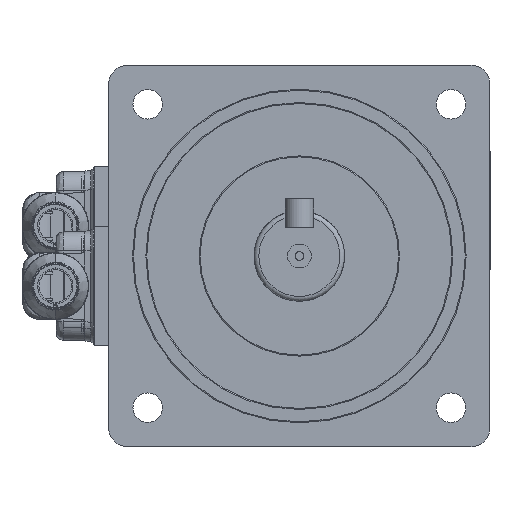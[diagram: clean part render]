
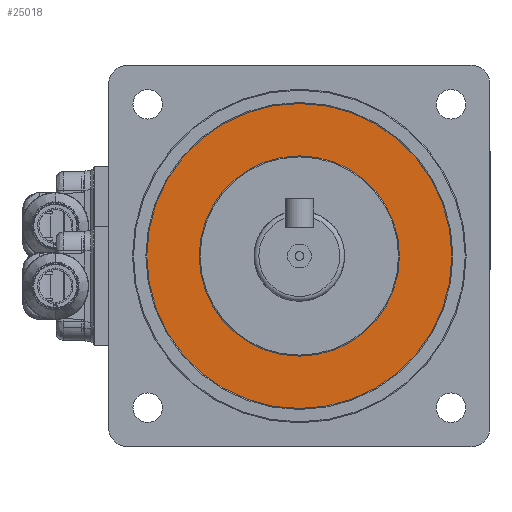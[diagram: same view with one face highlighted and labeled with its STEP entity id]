
A CAD part, left-side view. The second image highlights one B-rep face of the part: STEP entity #25018.
In plain terms, the highlighted planar face has unit normal (-1, 0, 0) as drawn and (0, 0, 1) by its records, which use the part's own axes.
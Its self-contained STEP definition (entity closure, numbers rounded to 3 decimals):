
#1400 = CARTESIAN_POINT ( 'NONE',  ( 21., 0., 7. ) ) ;
#1490 = CARTESIAN_POINT ( 'NONE',  ( 32., 0., 7. ) ) ;
#4013 = VERTEX_POINT ( 'NONE', #13503 ) ;
#4806 = AXIS2_PLACEMENT_3D ( 'NONE', #20583, #61955, #26472 ) ;
#5264 = AXIS2_PLACEMENT_3D ( 'NONE', #8929, #50346, #14893 ) ;
#7400 = FACE_OUTER_BOUND ( 'NONE', #31412, .T. ) ;
#8929 = CARTESIAN_POINT ( 'NONE',  ( 0., 0., 7. ) ) ;
#13503 = CARTESIAN_POINT ( 'NONE',  ( -32., 0., 7. ) ) ;
#14893 = DIRECTION ( 'NONE',  ( 1., 0., 0. ) ) ;
#16951 = ORIENTED_EDGE ( 'NONE', *, *, #44952, .T. ) ;
#18667 = VERTEX_POINT ( 'NONE', #1490 ) ;
#20583 = CARTESIAN_POINT ( 'NONE',  ( 0., 0., 7. ) ) ;
#25018 = ADVANCED_FACE ( 'NONE', ( #35110, #7400 ), #68620, .T. ) ;
#25402 = DIRECTION ( 'NONE',  ( 0., 0., 1. ) ) ;
#26472 = DIRECTION ( 'NONE',  ( 1., 0., 0. ) ) ;
#27425 = DIRECTION ( 'NONE',  ( 0., 0., 1. ) ) ;
#28936 = DIRECTION ( 'NONE',  ( 0., 0., 1. ) ) ;
#29416 = CIRCLE ( 'NONE', #4806, 32. ) ;
#31412 = EDGE_LOOP ( 'NONE', ( #76745, #16951 ) ) ;
#32615 = CIRCLE ( 'NONE', #34223, 21. ) ;
#34223 = AXIS2_PLACEMENT_3D ( 'NONE', #64443, #28936, #70415 ) ;
#35110 = FACE_BOUND ( 'NONE', #75043, .T. ) ;
#39140 = AXIS2_PLACEMENT_3D ( 'NONE', #56997, #27425, #68896 ) ;
#41475 = VERTEX_POINT ( 'NONE', #1400 ) ;
#43059 = AXIS2_PLACEMENT_3D ( 'NONE', #60889, #25402, #66820 ) ;
#44952 = EDGE_CURVE ( 'NONE', #4013, #18667, #29416, .T. ) ;
#45347 = EDGE_CURVE ( 'NONE', #18667, #4013, #61840, .T. ) ;
#48322 = VERTEX_POINT ( 'NONE', #65962 ) ;
#50346 = DIRECTION ( 'NONE',  ( 0., 0., 1. ) ) ;
#51464 = EDGE_CURVE ( 'NONE', #48322, #41475, #32615, .T. ) ;
#54412 = ORIENTED_EDGE ( 'NONE', *, *, #58083, .F. ) ;
#56997 = CARTESIAN_POINT ( 'NONE',  ( 0., 0., 7. ) ) ;
#58083 = EDGE_CURVE ( 'NONE', #41475, #48322, #62664, .T. ) ;
#60889 = CARTESIAN_POINT ( 'NONE',  ( 0., 0., 7. ) ) ;
#61205 = ORIENTED_EDGE ( 'NONE', *, *, #51464, .F. ) ;
#61840 = CIRCLE ( 'NONE', #43059, 32. ) ;
#61955 = DIRECTION ( 'NONE',  ( 0., 0., 1. ) ) ;
#62664 = CIRCLE ( 'NONE', #5264, 21. ) ;
#64443 = CARTESIAN_POINT ( 'NONE',  ( 0., 0., 7. ) ) ;
#65962 = CARTESIAN_POINT ( 'NONE',  ( -21., 0., 7. ) ) ;
#66820 = DIRECTION ( 'NONE',  ( 1., 0., 0. ) ) ;
#68620 = PLANE ( 'NONE',  #39140 ) ;
#68896 = DIRECTION ( 'NONE',  ( 1., 0., 0. ) ) ;
#70415 = DIRECTION ( 'NONE',  ( 1., 0., 0. ) ) ;
#75043 = EDGE_LOOP ( 'NONE', ( #54412, #61205 ) ) ;
#76745 = ORIENTED_EDGE ( 'NONE', *, *, #45347, .T. ) ;
